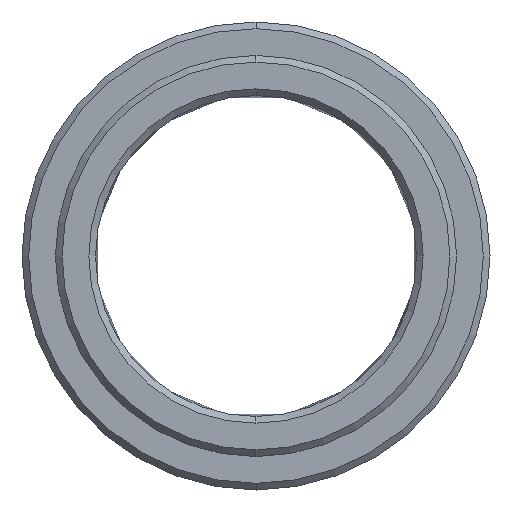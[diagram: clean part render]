
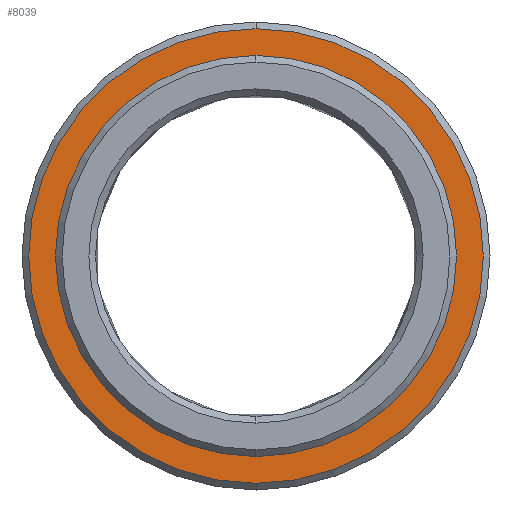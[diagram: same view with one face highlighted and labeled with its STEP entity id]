
A CAD part, left-side view. The second image highlights one B-rep face of the part: STEP entity #8039.
In plain terms, the highlighted planar face has unit normal (-1, 0, 0).
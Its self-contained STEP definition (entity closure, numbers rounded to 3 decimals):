
#5242=CARTESIAN_POINT('',(0.,0.,0.));
#5243=DIRECTION('',(1.,0.,0.));
#5244=DIRECTION('',(0.,0.,1.));
#5245=AXIS2_PLACEMENT_3D('',#5242,#5243,#5244);
#5247=CARTESIAN_POINT('',(0.,0.,0.));
#5248=DIRECTION('',(-1.,0.,0.));
#5249=DIRECTION('',(0.,0.,1.));
#5250=AXIS2_PLACEMENT_3D('',#5247,#5248,#5249);
#5252=CARTESIAN_POINT('',(0.,0.,0.));
#5253=DIRECTION('',(1.,0.,0.));
#5254=DIRECTION('',(0.,0.,-1.));
#5255=AXIS2_PLACEMENT_3D('',#5252,#5253,#5254);
#5257=CARTESIAN_POINT('',(0.,0.,
0.));
#5258=DIRECTION('',(1.,0.,0.));
#5259=DIRECTION('',(0.,0.,1.));
#5260=AXIS2_PLACEMENT_3D('',#5257,#5258,#5259);
#5512=CARTESIAN_POINT('',(0.,0.,-17.));
#5513=CARTESIAN_POINT('',(0.,0.,17.));
#5514=VERTEX_POINT('',#5512);
#5515=VERTEX_POINT('',#5513);
#5658=CARTESIAN_POINT('',(0.,0.,15.));
#5659=CARTESIAN_POINT('',(0.,0.,-15.));
#5660=VERTEX_POINT('',#5658);
#5661=VERTEX_POINT('',#5659);
#8024=CARTESIAN_POINT('',(0.,0.,0.));
#8025=DIRECTION('',(1.,0.,0.));
#8026=DIRECTION('',(0.,0.,1.));
#8027=AXIS2_PLACEMENT_3D('',#8024,#8025,#8026);
#8028=PLANE('',#8027);
#8029=ORIENTED_EDGE('',*,*,#8004,.T.);
#8030=ORIENTED_EDGE('',*,*,#8018,.T.);
#8031=EDGE_LOOP('',(#8029,#8030));
#8032=FACE_OUTER_BOUND('',#8031,.F.);
#8034=ORIENTED_EDGE('',*,*,#8033,.F.);
#8036=ORIENTED_EDGE('',*,*,#8035,.T.);
#8037=EDGE_LOOP('',(#8034,#8036));
#8038=FACE_BOUND('',#8037,.F.);
#8039=ADVANCED_FACE('',(#8032,#8038),#8028,.F.);
#5246=CIRCLE('',#5245,15.);
#5251=CIRCLE('',#5250,15.);
#5256=CIRCLE('',#5255,17.);
#5261=CIRCLE('',#5260,17.);
#8004=EDGE_CURVE('',#5514,#5515,#5256,.T.);
#8018=EDGE_CURVE('',#5515,#5514,#5261,.T.);
#8033=EDGE_CURVE('',#5660,#5661,#5246,.T.);
#8035=EDGE_CURVE('',#5660,#5661,#5251,.T.);
